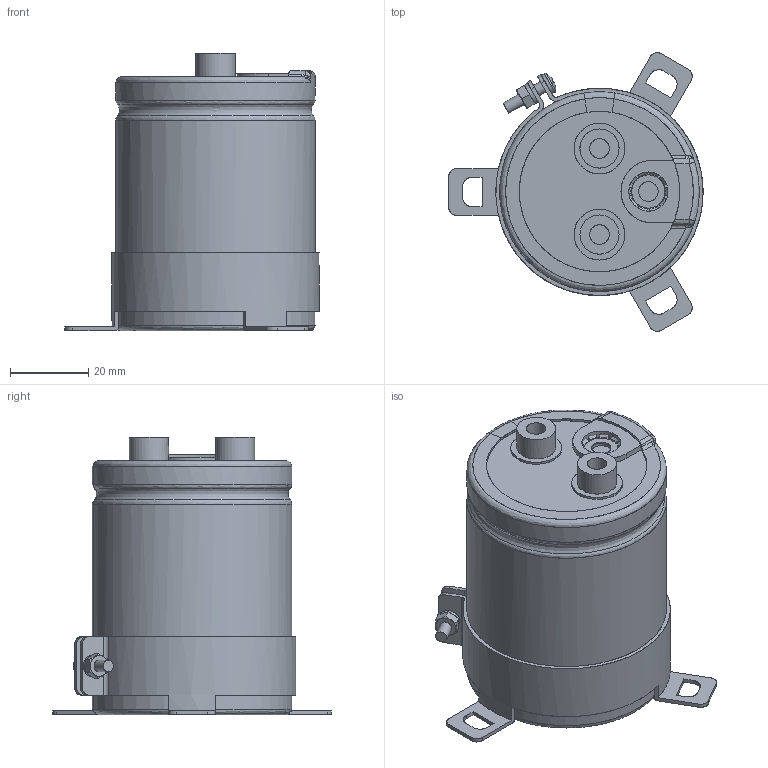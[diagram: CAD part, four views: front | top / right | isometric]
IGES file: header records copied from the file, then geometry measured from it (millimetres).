
Start section: JAMA-IS VERSION  1.0
Bounding box: 65 x 71.22 x 71 mm (x, y, z)
Surface area: 45754.2 mm2 (no closed solid volume)
Topology: 0 solids, 0 shells, 298 faces, 4625 edges, 4595 vertices
Faces by surface type: bspline 298
